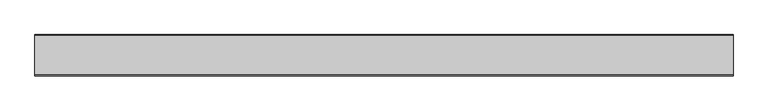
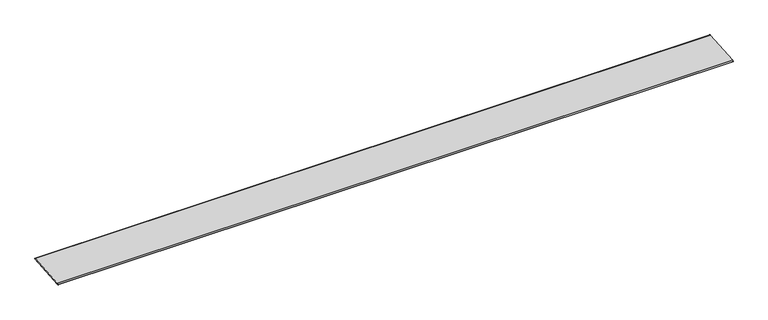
"""IFC4 building model written with IfcOpenShell, lengths in millimetres: proxy geometry, Muestra_5 m R49 : Muestra_5 m R49."""

from ifc_helpers import new_model, si_unit, point, frame, frame_2d, origin, place, context, project, spatial, polyline, circle_curve, trimmed, segment, composite_curve, outline, extrude, source, transform, mapped, element, save


def generic_models_a93da772(model_context):
    return source(origin(), model_context, "Body", "SweptSolid", [
        extrude(outline(composite_curve([segment(polyline([(28006.0471697, 220.4828167), (27710.0261506, 196.3880826), (27709.9037721, 197.89159)]), True, "CONTINUOUS"), segment(trimmed(circle_curve(frame_2d((27717.7204409, 197.189121)), 7.8481701), [point((27709.9037721, 197.89159))], [point((27716.4955934, 204.9411222))], False, "CARTESIAN"), True, "CONTINUOUS"), segment(polyline([(27716.4955934, 204.9411222), (28004.5437983, 228.3869063)]), True, "CONTINUOUS"), segment(trimmed(circle_curve(frame_2d((28004.6583995, 226.9789488)), 1.4126139), [point((28004.5437983, 228.3869063))], [point((28005.4216636, 228.1676059))], False, "CARTESIAN"), True, "CONTINUOUS"), segment(polyline([(28005.4216636, 228.1676059), (28006.0471697, 220.4828167)]), True, "CONTINUOUS")], self_intersect=False)), frame((70705.5649351, 0.0, 0.0), z_axis=(1.0, 0.0, 0.0), x_axis=(0.0, 1.0, 0.0)), (0.0, 0.0, 1.0), 5000.0),
    ])


if __name__ == "__main__":
    model = new_model("IFC4")
    model_context = context("Model", 3, world=origin())
    ifc_project = project(units=[si_unit("LENGTHUNIT", "METRE", prefix="MILLI")], contexts=[model_context])
    site = spatial("IfcSite", under=ifc_project)
    building = spatial("IfcBuilding", under=site)
    placement = place(None, origin())
    generic_models_shape = generic_models_a93da772(model_context)
    element("IfcBuildingElementProxy", 1, Name="Muestra_5 m R49 : Muestra_5 m R49", ObjectType="Muestra_5 m R49 : Muestra_5 m R49", at=placement, inside=building, context=model_context, shape_type="MappedRepresentation", body=[
        mapped(generic_models_shape, transform((0.0, 0.0, 0.0), x_axis=(1.0, 0.0, 0.0), y_axis=(0.0, 1.0, 0.0), z_axis=(0.0, 0.0, 1.0))),
    ])
    save(model, "model.ifc")
